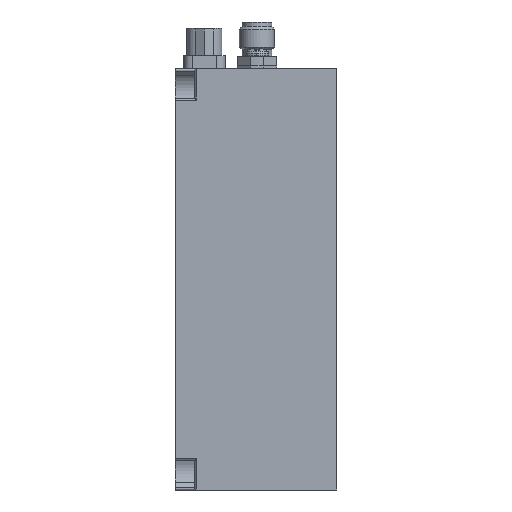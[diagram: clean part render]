
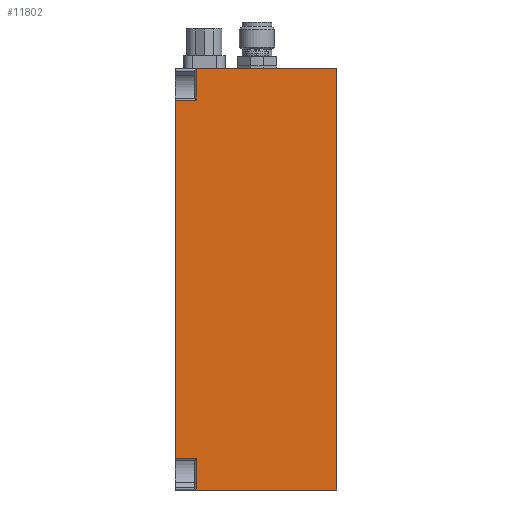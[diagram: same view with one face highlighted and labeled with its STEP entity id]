
A CAD part, left-side view. The second image highlights one B-rep face of the part: STEP entity #11802.
In plain terms, the highlighted planar face has unit normal (-1, 0, 0).
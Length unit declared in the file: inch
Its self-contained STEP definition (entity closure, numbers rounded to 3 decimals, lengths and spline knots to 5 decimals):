
#8 = AXIS2_PLACEMENT_3D ( 'NONE', #7957, #12095, #26373 ) ;
#21 = DIRECTION ( 'NONE',  ( 0., 0., 1. ) ) ;
#492 = CARTESIAN_POINT ( 'NONE',  ( -1., 1.1506, -3. ) ) ;
#983 = LINE ( 'NONE', #4203, #5788 ) ;
#1115 = VECTOR ( 'NONE', #5100, 39.37008 ) ;
#1799 = EDGE_CURVE ( 'NONE', #24555, #10263, #10095, .T. ) ;
#1809 = LINE ( 'NONE', #3705, #12687 ) ;
#2036 = DIRECTION ( 'NONE',  ( 0., -1., 0. ) ) ;
#2082 = LINE ( 'NONE', #16330, #12318 ) ;
#2198 = ORIENTED_EDGE ( 'NONE', *, *, #13957, .F. ) ;
#2686 = VERTEX_POINT ( 'NONE', #10725 ) ;
#3350 = CARTESIAN_POINT ( 'NONE',  ( -1., 1.0006, -0.22298 ) ) ;
#3415 = CARTESIAN_POINT ( 'NONE',  ( -1., 1.0006, -0.22298 ) ) ;
#3592 = CARTESIAN_POINT ( 'NONE',  ( -1., 1.0006, -3. ) ) ;
#3705 = CARTESIAN_POINT ( 'NONE',  ( -1., 1.1506, 0. ) ) ;
#3878 = CARTESIAN_POINT ( 'NONE',  ( -1., 1.1506, -0.22298 ) ) ;
#4203 = CARTESIAN_POINT ( 'NONE',  ( -1., 1.1506, -3. ) ) ;
#5100 = DIRECTION ( 'NONE',  ( 0., 0., -1. ) ) ;
#5107 = LINE ( 'NONE', #3415, #9885 ) ;
#5170 = ORIENTED_EDGE ( 'NONE', *, *, #7808, .T. ) ;
#5461 = DIRECTION ( 'NONE',  ( 0., 0., -1. ) ) ;
#5573 = VECTOR ( 'NONE', #18184, 39.37008 ) ;
#5700 = EDGE_CURVE ( 'NONE', #11278, #24555, #22856, .T. ) ;
#5788 = VECTOR ( 'NONE', #6256, 39.37008 ) ;
#5803 = FACE_OUTER_BOUND ( 'NONE', #24940, .T. ) ;
#6256 = DIRECTION ( 'NONE',  ( 0., 0., 1. ) ) ;
#6993 = ORIENTED_EDGE ( 'NONE', *, *, #18256, .T. ) ;
#7567 = CARTESIAN_POINT ( 'NONE',  ( -1., 0., 0. ) ) ;
#7770 = PLANE ( 'NONE',  #8 ) ;
#7808 = EDGE_CURVE ( 'NONE', #10263, #15864, #9988, .T. ) ;
#7957 = CARTESIAN_POINT ( 'NONE',  ( -1., 1.1506, -3. ) ) ;
#9440 = VECTOR ( 'NONE', #12834, 39.37008 ) ;
#9820 = EDGE_CURVE ( 'NONE', #16397, #19457, #15169, .T. ) ;
#9885 = VECTOR ( 'NONE', #5461, 39.37008 ) ;
#9988 = LINE ( 'NONE', #14338, #14156 ) ;
#10095 = LINE ( 'NONE', #492, #9440 ) ;
#10263 = VERTEX_POINT ( 'NONE', #26182 ) ;
#10590 = CARTESIAN_POINT ( 'NONE',  ( -1., 1.1506, -2.77702 ) ) ;
#10725 = CARTESIAN_POINT ( 'NONE',  ( -1., 1.0006, 0. ) ) ;
#11278 = VERTEX_POINT ( 'NONE', #16564 ) ;
#11802 = ADVANCED_FACE ( 'NONE', ( #5803 ), #7770, .F. ) ;
#12095 = DIRECTION ( 'NONE',  ( 1., 0., 0. ) ) ;
#12318 = VECTOR ( 'NONE', #2036, 39.37008 ) ;
#12687 = VECTOR ( 'NONE', #17996, 39.37008 ) ;
#12834 = DIRECTION ( 'NONE',  ( 0., -1., 0. ) ) ;
#13686 = ORIENTED_EDGE ( 'NONE', *, *, #26509, .T. ) ;
#13957 = EDGE_CURVE ( 'NONE', #2686, #15864, #1809, .T. ) ;
#14156 = VECTOR ( 'NONE', #21, 39.37008 ) ;
#14190 = ORIENTED_EDGE ( 'NONE', *, *, #16965, .F. ) ;
#14338 = CARTESIAN_POINT ( 'NONE',  ( -1., 0., -3. ) ) ;
#15169 = LINE ( 'NONE', #3878, #5573 ) ;
#15864 = VERTEX_POINT ( 'NONE', #7567 ) ;
#16330 = CARTESIAN_POINT ( 'NONE',  ( -1., 1.1506, -2.77702 ) ) ;
#16397 = VERTEX_POINT ( 'NONE', #3350 ) ;
#16564 = CARTESIAN_POINT ( 'NONE',  ( -1., 1.0006, -2.77702 ) ) ;
#16731 = ORIENTED_EDGE ( 'NONE', *, *, #1799, .T. ) ;
#16965 = EDGE_CURVE ( 'NONE', #25702, #19457, #983, .T. ) ;
#17996 = DIRECTION ( 'NONE',  ( 0., -1., 0. ) ) ;
#18184 = DIRECTION ( 'NONE',  ( 0., 1., 0. ) ) ;
#18256 = EDGE_CURVE ( 'NONE', #2686, #16397, #5107, .T. ) ;
#18275 = CARTESIAN_POINT ( 'NONE',  ( -1., 1.1506, -0.22298 ) ) ;
#19412 = CARTESIAN_POINT ( 'NONE',  ( -1., 1.0006, -3. ) ) ;
#19457 = VERTEX_POINT ( 'NONE', #18275 ) ;
#22856 = LINE ( 'NONE', #19412, #1115 ) ;
#23349 = ORIENTED_EDGE ( 'NONE', *, *, #9820, .T. ) ;
#23680 = ORIENTED_EDGE ( 'NONE', *, *, #5700, .T. ) ;
#24555 = VERTEX_POINT ( 'NONE', #3592 ) ;
#24940 = EDGE_LOOP ( 'NONE', ( #13686, #23680, #16731, #5170, #2198, #6993, #23349, #14190 ) ) ;
#25702 = VERTEX_POINT ( 'NONE', #10590 ) ;
#26182 = CARTESIAN_POINT ( 'NONE',  ( -1., 0., -3. ) ) ;
#26373 = DIRECTION ( 'NONE',  ( 0., 0., -1. ) ) ;
#26509 = EDGE_CURVE ( 'NONE', #25702, #11278, #2082, .T. ) ;
